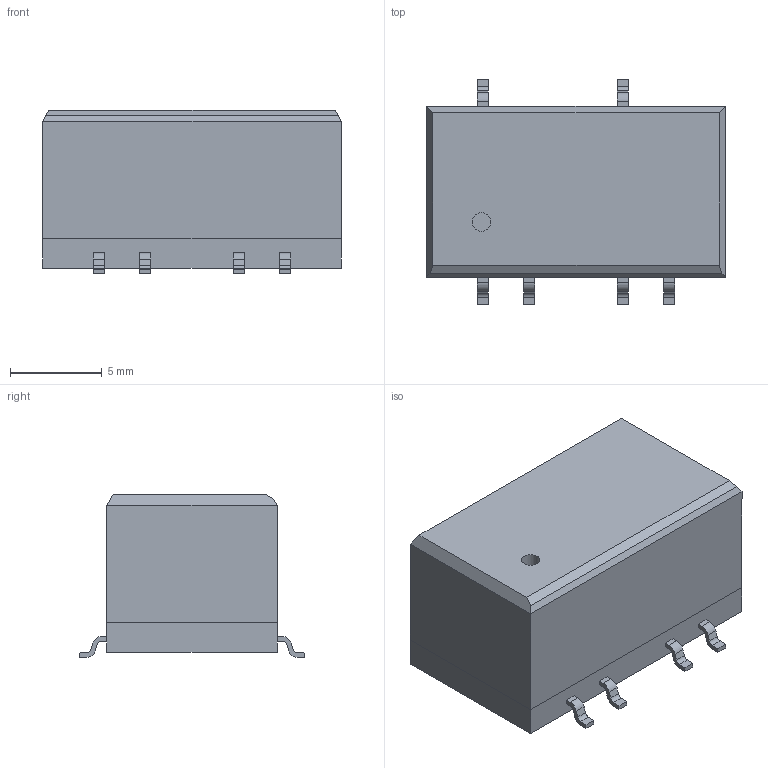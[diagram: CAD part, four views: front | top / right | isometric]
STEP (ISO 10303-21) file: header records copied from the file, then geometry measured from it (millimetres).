
FILE_DESCRIPTION(/* description */ (''),/* implementation_level */ '2;1');
FILE_NAME(/* name */ 'C:\Users\Calliope\Desktop\TES 2H(Dual Output).stp',/* time_stamp */ '2021-08-03T15:31:59+08:00',/* author */ ('Calliope'),/* organization */ (''),/* preprocessor_version */ 'ST-DEVELOPER v16.1',/* originating_system */ 'Autodesk Inventor 2016',/* authorisation */ '');
FILE_SCHEMA (('AUTOMOTIVE_DESIGN { 1 0 10303 214 3 1 1 }'));
Length unit declared in the file: millimetre
Products named in the file (1): TES 2H(Dual Output)
Bounding box: 16.3 x 12.3 x 8.9 mm (x, y, z)
Volume: 809.8 mm3; surface area: 1442.1 mm2
Topology: 1 solids, 1 shells, 152 faces, 394 edges, 259 vertices
Faces by surface type: plane 126, cylinder 26
Full cylindrical faces by diameter (mm): 1 x2
Entity records: 4747 total; most frequent: CARTESIAN_POINT 802, ORIENTED_EDGE 782, DIRECTION 749, EDGE_CURVE 391, LINE 339, VECTOR 339, VERTEX_POINT 258, AXIS2_PLACEMENT_3D 205
